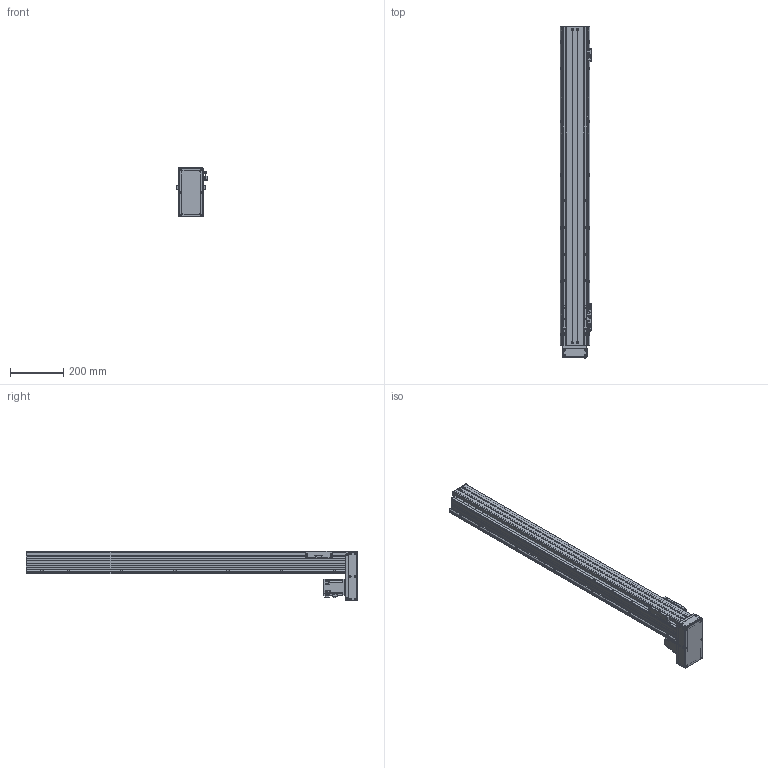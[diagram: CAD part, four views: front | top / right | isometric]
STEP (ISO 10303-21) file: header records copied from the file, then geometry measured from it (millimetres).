
FILE_DESCRIPTION(/* description */ ('MANUFACTURE','CAx-IF Rec.Pracs.---Representation and Presentation of Product Manufacturing Information (PMI)---4.0---2014-10-13'),/* implementation_level */ '2;1');
FILE_NAME(/* name */ '\\192.168.0.160\disk1\HAN SHIN Master\B-설계부문\C-표준\B-2024년\BC02-표준도면\+로봇 개선표준도면\표준 승인도 폴더 - 재작업\3D\HS Type\HS90 - 1RAIL\D - Type\HS90-D20-N1B-1000-R10.stp',/* time_stamp */ '2024-08-26T15:20:47+09:00',/* author */ ('user'),/* organization */ (''),/* preprocessor_version */ 'ST-DEVELOPER v18.1',/* originating_system */ 'Autodesk Inventor 2022',/* authorisation */ 'LIP');
FILE_SCHEMA (('AP242_MANAGED_MODEL_BASED_3D_ENGINEERING_MIM_LF { 1 0 10303 442 1 1 4 }'));
Products named in the file (25): HS90-D20-N1B-0700-R10 (간소화); BASE; UPCOVER; SIDE COVER; HS90 SIDE COVER - 200W 1BLOCK-MIRROR; HR90 FRONT BLOCK; HR90 REAR BLOCK TENSION; S 20R_BLOCK; REAR COVER; STOPPER3; HR120 SENSOR DOG; hg-kr23_; hsr_ftht_A-M6F_grease_nipple_joint; NIPPLE CAP(신규); STOPPER104; MOTOR PLATE-200W(MITSUBISHI); LMKE1520 NUT; HS90 TABLE-SR20W; HS90-D MOTOR PLATE; HS90 D- BELT COVER; HG90DACRYLCOVER001; HG90DACRYLCOVER003; HG90DACRYLCOVER002; SENSOR BRK(EE-SX674A); EE_SX674A
Assembly tree (32 placements, depth 2):
  HS90-D20-N1B-0700-R10 (간소화)
    BASE
    UPCOVER
    SIDE COVER
    HS90 SIDE COVER - 200W 1BLOCK-MIRROR
    HR90 FRONT BLOCK
    HR90 REAR BLOCK TENSION
    S 20R_BLOCK
    REAR COVER
    STOPPER3
    HR120 SENSOR DOG
    SENSOR BRK(EE-SX674A)  x3
    EE_SX674A  x3
    hsr_ftht_A-M6F_grease_nipple_joint  x2
    NIPPLE CAP(신규)  x2
    hg-kr23_
    STOPPER104  x2
    MOTOR PLATE-200W(MITSUBISHI)
    LMKE1520 NUT
    HS90 TABLE-SR20W
    HS90-D MOTOR PLATE
    HS90 D- BELT COVER
    HG90DACRYLCOVER001
    HG90DACRYLCOVER002  x2
    HG90DACRYLCOVER003
Bounding box: 120 x 1247 x 187.5 mm (x, y, z)
Volume: 3652948.1 mm3; surface area: 1313559.4 mm2
Topology: 32 solids, 32 shells, 1991 faces, 5465 edges, 3579 vertices
Faces by surface type: plane 1045, cylinder 732, cone 178, sphere 16, torus 12, bspline 8
Full cylindrical faces by diameter (mm): 2.459 x50, 3 x4, 3.242 x54, 3.4 x22, 3.5 x6, 4.134 x53, 4.5 x41, 4.917 x19, 5 x26, 5.5 x13, 5.6 x10, 5.7 x4, 5.8 x4, 5.9 x8, 6 x12, 6.2 x4, 6.5 x4, 8 x5, 9.5 x13, 14 x1, 15 x2, 17 x1, 20 x1, 25 x2, 28 x1, 32 x2, 33.7 x1, 34 x1, 50 x2
Entity records: 63107 total; most frequent: CARTESIAN_POINT 12614, DIRECTION 10194, ORIENTED_EDGE 9240, EDGE_CURVE 4620, AXIS2_PLACEMENT_3D 3701, VERTEX_POINT 3074, LINE 2792, VECTOR 2792
